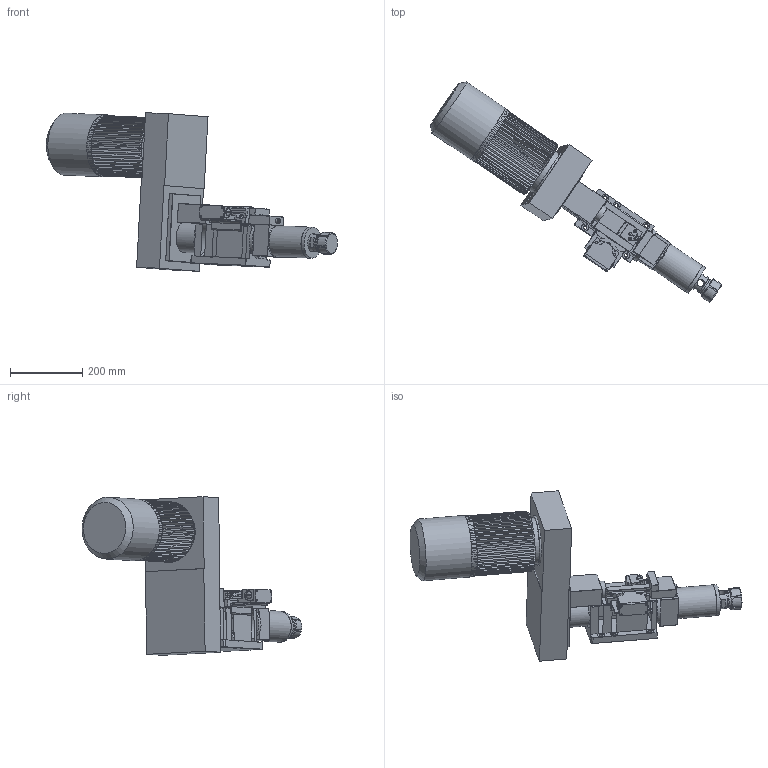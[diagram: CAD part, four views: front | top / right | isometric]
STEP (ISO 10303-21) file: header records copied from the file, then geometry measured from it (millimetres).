
FILE_DESCRIPTION((''),'2;1');
FILE_NAME('C:\VaultWork\Zeichnungen\Maßblätter\Gewindemaschinen\G16-50\G01421-2-0 Maßblatt G16-50 Z-Laterne und Spannzangenaufnahme.stp','2009-07-22T12:20:56',('Test'),(''),'Autodesk Inventor 2008','Autodesk Inventor 2008','');
FILE_SCHEMA(('AUTOMOTIVE_DESIGN { 1 0 10303 214 1 1 1 1 }'));
Length unit declared in the file: millimetre
Products named in the file (1): G01421-2-0 Maßblatt G16-50 Z-Laterne und Spannzangenaufnahme
Bounding box: 808.37 x 610.99 x 440.57 mm (x, y, z)
Volume: 18603157.8 mm3; surface area: 993018.7 mm2
Topology: 7 solids, 7 shells, 1106 faces, 2869 edges, 1806 vertices
Faces by surface type: plane 730, cylinder 197, cone 118, bspline 39, torus 18, sphere 4
Full cylindrical faces by diameter (mm): 3.8 x2, 4 x2, 4.3 x2, 4.917 x2, 5.9 x2, 5.97 x1, 6 x3, 6.6 x2, 7.323 x1, 8 x6, 9.98 x2, 10 x2, 11.4 x1, 13 x1, 16 x1, 20 x3, 43 x1, 45 x1, 48 x1, 50 x1, 86 x2, 130 x1, 140 x1, 172 x1
Entity records: 35540 total; most frequent: CARTESIAN_POINT 8195, ORIENTED_EDGE 5468, DIRECTION 5291, EDGE_CURVE 2734, VECTOR 1849, LINE 1849, VERTEX_POINT 1765, AXIS2_PLACEMENT_3D 1721
